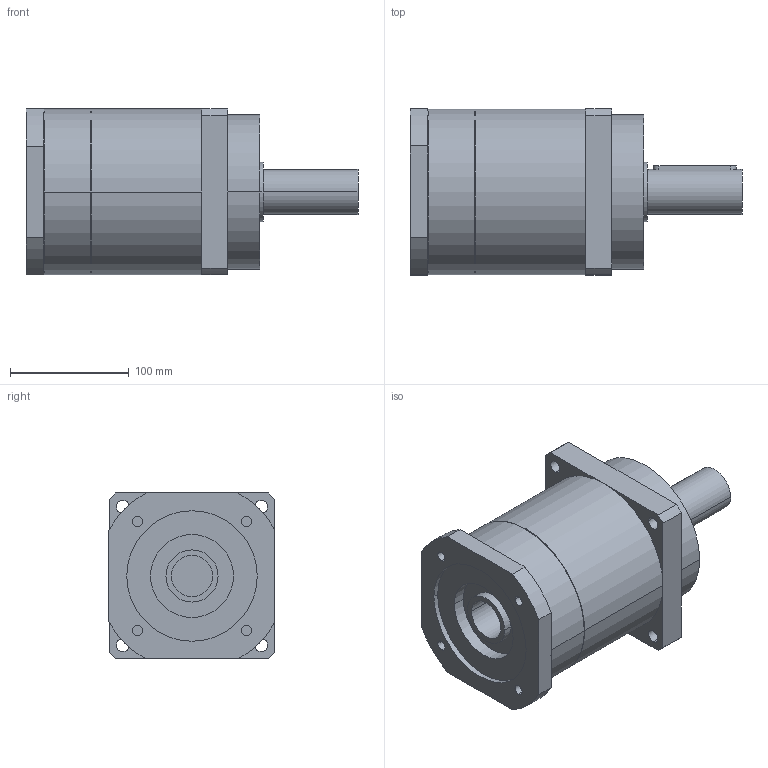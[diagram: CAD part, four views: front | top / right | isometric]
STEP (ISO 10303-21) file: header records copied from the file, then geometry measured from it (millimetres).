
FILE_DESCRIPTION(('CoCreate Modeling STEP Export'),'2;1');
FILE_NAME('GPR150_ig-3-4-5-7_38_B5_35_P04.stp','2014-08-19T16:43:12',(''),(''),'CoCreate Modeling STEP processor for AP214 (Solid Model)','CoCreate Modeling 16.00C 25-Feb-2009 (C) Parametric Technology GmbH','');
FILE_SCHEMA(('AUTOMOTIVE_DESIGN { 1 0 10303 214 1 1 1 1 }'));
Length unit declared in the file: millimetre
Products named in the file (2): GPR150_ig-3-4-5-7_38_B5_35_P04
Assembly tree (1 placements, depth 2):
  GPR150_ig-3-4-5-7_38_B5_35_P04
    GPR150_ig-3-4-5-7_38_B5_35_P04
Bounding box: 280 x 140 x 140 mm (x, y, z)
Volume: 3043460.6 mm3; surface area: 162974.5 mm2
Topology: 1 solids, 1 shells, 94 faces, 257 edges, 173 vertices
Faces by surface type: cylinder 54, plane 34, cone 6
Entity records: 2628 total; most frequent: ORIENTED_EDGE 510, CARTESIAN_POINT 477, DIRECTION 370, EDGE_CURVE 255, VERTEX_POINT 173, AXIS2_PLACEMENT_3D 138, EDGE_LOOP 120, VECTOR 94
